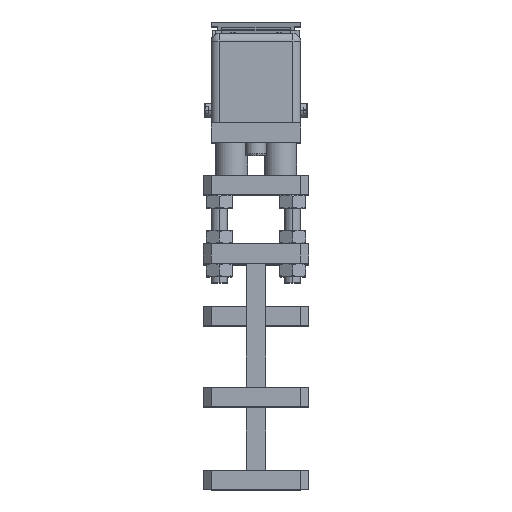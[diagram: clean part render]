
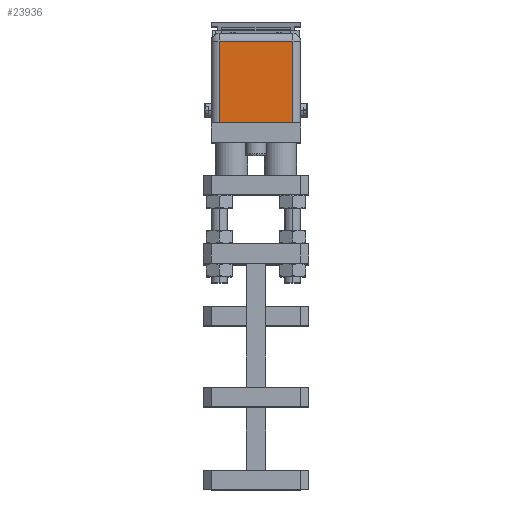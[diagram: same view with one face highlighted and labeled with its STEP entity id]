
A CAD part, top view. The second image highlights one B-rep face of the part: STEP entity #23936.
In plain terms, the highlighted planar face has unit normal (0, 0, 1).
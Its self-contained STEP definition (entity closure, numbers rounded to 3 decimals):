
#386 = PLANE ( 'NONE',  #5570 ) ;
#481 = CARTESIAN_POINT ( 'NONE',  ( 66.137, 224.12, 35.708 ) ) ;
#893 = DIRECTION ( 'NONE',  ( 0., 1., 0. ) ) ;
#2366 = VERTEX_POINT ( 'NONE', #12430 ) ;
#3931 = ORIENTED_EDGE ( 'NONE', *, *, #14192, .T. ) ;
#4545 = EDGE_LOOP ( 'NONE', ( #17091, #30376, #3931, #20155 ) ) ;
#5570 = AXIS2_PLACEMENT_3D ( 'NONE', #16976, #16812, #21611 ) ;
#5633 = VERTEX_POINT ( 'NONE', #25261 ) ;
#6578 = LINE ( 'NONE', #18692, #18704 ) ;
#7491 = FACE_OUTER_BOUND ( 'NONE', #4545, .T. ) ;
#7581 = DIRECTION ( 'NONE',  ( 0., -1., 0. ) ) ;
#8092 = VERTEX_POINT ( 'NONE', #26861 ) ;
#8930 = CARTESIAN_POINT ( 'NONE',  ( 66.137, 214.12, 35.708 ) ) ;
#9781 = LINE ( 'NONE', #481, #28780 ) ;
#11752 = VECTOR ( 'NONE', #20594, 1000. ) ;
#12430 = CARTESIAN_POINT ( 'NONE',  ( 66.137, 164.12, 35.708 ) ) ;
#14192 = EDGE_CURVE ( 'NONE', #5633, #2366, #24780, .T. ) ;
#14648 = EDGE_CURVE ( 'NONE', #8092, #15056, #6578, .T. ) ;
#15056 = VERTEX_POINT ( 'NONE', #8930 ) ;
#16812 = DIRECTION ( 'NONE',  ( 0., 0., -1. ) ) ;
#16976 = CARTESIAN_POINT ( 'NONE',  ( 71.137, 224.12, 35.708 ) ) ;
#17091 = ORIENTED_EDGE ( 'NONE', *, *, #14648, .F. ) ;
#18692 = CARTESIAN_POINT ( 'NONE',  ( 71.137, 214.12, 35.708 ) ) ;
#18704 = VECTOR ( 'NONE', #23329, 1000. ) ;
#20155 = ORIENTED_EDGE ( 'NONE', *, *, #22266, .F. ) ;
#20594 = DIRECTION ( 'NONE',  ( 1., 0., 0. ) ) ;
#21611 = DIRECTION ( 'NONE',  ( -1., 0., 0. ) ) ;
#22266 = EDGE_CURVE ( 'NONE', #15056, #2366, #9781, .T. ) ;
#23329 = DIRECTION ( 'NONE',  ( 1., 0., 0. ) ) ;
#23936 = ADVANCED_FACE ( 'NONE', ( #7491 ), #386, .F. ) ;
#24314 = VECTOR ( 'NONE', #893, 1000. ) ;
#24780 = LINE ( 'NONE', #27272, #11752 ) ;
#25261 = CARTESIAN_POINT ( 'NONE',  ( 21.137, 164.12, 35.708 ) ) ;
#26185 = EDGE_CURVE ( 'NONE', #5633, #8092, #27087, .T. ) ;
#26861 = CARTESIAN_POINT ( 'NONE',  ( 21.137, 214.12, 35.708 ) ) ;
#27087 = LINE ( 'NONE', #29433, #24314 ) ;
#27272 = CARTESIAN_POINT ( 'NONE',  ( 43.637, 164.12, 35.708 ) ) ;
#28780 = VECTOR ( 'NONE', #7581, 1000. ) ;
#29433 = CARTESIAN_POINT ( 'NONE',  ( 21.137, 224.12, 35.708 ) ) ;
#30376 = ORIENTED_EDGE ( 'NONE', *, *, #26185, .F. ) ;
